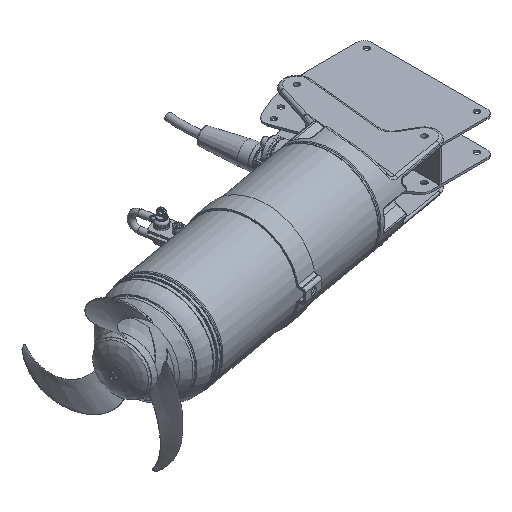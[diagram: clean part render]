
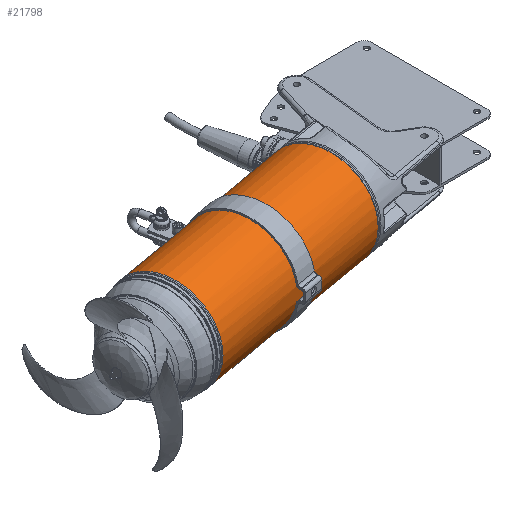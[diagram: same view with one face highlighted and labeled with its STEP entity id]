
A CAD part, isometric view. The second image highlights one B-rep face of the part: STEP entity #21798.
In plain terms, the highlighted cylindrical face has radius 98 mm (diameter 196 mm), a full revolution.
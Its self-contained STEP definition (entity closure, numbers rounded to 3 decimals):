
#15 = VERTEX_POINT ( 'NONE', #26609 ) ;
#64 = FACE_BOUND ( 'NONE', #28734, .T. ) ;
#120 = FACE_OUTER_BOUND ( 'NONE', #3072, .T. ) ;
#172 = FACE_BOUND ( 'NONE', #40458, .T. ) ;
#266 = DIRECTION ( 'NONE',  ( 0., 0., -1. ) ) ;
#401 = FACE_OUTER_BOUND ( 'NONE', #1186, .T. ) ;
#653 = VERTEX_POINT ( 'NONE', #3401 ) ;
#1125 = LINE ( 'NONE', #26561, #1234 ) ;
#1186 = EDGE_LOOP ( 'NONE', ( #4690 ) ) ;
#1234 = VECTOR ( 'NONE', #52079, 1000. ) ;
#2084 = VERTEX_POINT ( 'NONE', #19236 ) ;
#2513 = VERTEX_POINT ( 'NONE', #40773 ) ;
#3030 = EDGE_CURVE ( 'NONE', #3349, #653, #26223, .T. ) ;
#3072 = EDGE_LOOP ( 'NONE', ( #8753 ) ) ;
#3349 = VERTEX_POINT ( 'NONE', #33432 ) ;
#3401 = CARTESIAN_POINT ( 'NONE',  ( -368.321, -78.17, -13.652 ) ) ;
#4690 = ORIENTED_EDGE ( 'NONE', *, *, #30831, .T. ) ;
#5323 = VERTEX_POINT ( 'NONE', #23385 ) ;
#5430 = DIRECTION ( 'NONE',  ( -0.985, -0.174, 0. ) ) ;
#5707 = CIRCLE ( 'NONE', #48432, 98. ) ;
#6019 = CARTESIAN_POINT ( 'NONE',  ( -564.935, -14.297, 0. ) ) ;
#6060 = EDGE_CURVE ( 'NONE', #653, #15, #12913, .T. ) ;
#6793 = CARTESIAN_POINT ( 'NONE',  ( -188.668, 52.049, 98. ) ) ;
#7293 = ORIENTED_EDGE ( 'NONE', *, *, #27232, .F. ) ;
#7350 = EDGE_CURVE ( 'NONE', #5323, #2084, #7754, .T. ) ;
#7668 = VECTOR ( 'NONE', #15635, 1000. ) ;
#7754 = CIRCLE ( 'NONE', #19948, 98. ) ;
#8753 = ORIENTED_EDGE ( 'NONE', *, *, #34510, .T. ) ;
#10248 = DIRECTION ( 'NONE',  ( 0., 0., 1. ) ) ;
#11009 = ORIENTED_EDGE ( 'NONE', *, *, #21568, .F. ) ;
#11129 = CIRCLE ( 'NONE', #31465, 98. ) ;
#11857 = AXIS2_PLACEMENT_3D ( 'NONE', #20135, #16451, #12233 ) ;
#12233 = DIRECTION ( 'NONE',  ( 0., 0., -1. ) ) ;
#12448 = CARTESIAN_POINT ( 'NONE',  ( -345.78, 24.346, 0. ) ) ;
#12913 = CIRCLE ( 'NONE', #14625, 98. ) ;
#14028 = VERTEX_POINT ( 'NONE', #39700 ) ;
#14049 = ORIENTED_EDGE ( 'NONE', *, *, #7350, .T. ) ;
#14625 = AXIS2_PLACEMENT_3D ( 'NONE', #50882, #25385, #266 ) ;
#14984 = VECTOR ( 'NONE', #47099, 1000. ) ;
#15635 = DIRECTION ( 'NONE',  ( -0.985, -0.174, 0. ) ) ;
#16051 = VERTEX_POINT ( 'NONE', #54457 ) ;
#16451 = DIRECTION ( 'NONE',  ( -0.985, -0.174, 0. ) ) ;
#16646 = DIRECTION ( 'NONE',  ( 0., 0., -1. ) ) ;
#19236 = CARTESIAN_POINT ( 'NONE',  ( -328.928, -71.224, 13.652 ) ) ;
#19948 = AXIS2_PLACEMENT_3D ( 'NONE', #12448, #42000, #16646 ) ;
#20135 = CARTESIAN_POINT ( 'NONE',  ( -568.346, -14.899, 0. ) ) ;
#21568 = EDGE_CURVE ( 'NONE', #2513, #2084, #1125, .T. ) ;
#21798 = ADVANCED_FACE ( 'NONE', ( #172, #64, #401, #120 ), #54815, .T. ) ;
#23385 = CARTESIAN_POINT ( 'NONE',  ( -362.703, 120.32, 10.326 ) ) ;
#24255 = CARTESIAN_POINT ( 'NONE',  ( -345.78, 24.346, 0. ) ) ;
#24973 = CARTESIAN_POINT ( 'NONE',  ( -385.172, 17.4, 0. ) ) ;
#25385 = DIRECTION ( 'NONE',  ( 0.985, 0.174, 0. ) ) ;
#25884 = LINE ( 'NONE', #29983, #14984 ) ;
#26051 = VECTOR ( 'NONE', #52672, 1000. ) ;
#26223 = LINE ( 'NONE', #44108, #26051 ) ;
#26561 = CARTESIAN_POINT ( 'NONE',  ( -348.624, -74.697, 13.652 ) ) ;
#26609 = CARTESIAN_POINT ( 'NONE',  ( -402.095, 113.374, -10.326 ) ) ;
#26643 = EDGE_CURVE ( 'NONE', #15, #16051, #25884, .T. ) ;
#26859 = CIRCLE ( 'NONE', #47125, 98. ) ;
#27232 = EDGE_CURVE ( 'NONE', #14028, #2513, #11129, .T. ) ;
#28526 = DIRECTION ( 'NONE',  ( 0., 0., -1. ) ) ;
#28734 = EDGE_LOOP ( 'NONE', ( #35966, #49522, #35207, #48910 ) ) ;
#29239 = DIRECTION ( 'NONE',  ( 0., 0., -1. ) ) ;
#29983 = CARTESIAN_POINT ( 'NONE',  ( -382.399, 116.847, -10.326 ) ) ;
#30070 = LINE ( 'NONE', #36673, #7668 ) ;
#30653 = CARTESIAN_POINT ( 'NONE',  ( -188.668, 52.049, 0. ) ) ;
#30831 = EDGE_CURVE ( 'NONE', #40918, #40918, #34842, .T. ) ;
#31465 = AXIS2_PLACEMENT_3D ( 'NONE', #24973, #54770, #29239 ) ;
#33432 = CARTESIAN_POINT ( 'NONE',  ( -328.928, -71.224, -13.652 ) ) ;
#34510 = EDGE_CURVE ( 'NONE', #36274, #36274, #5707, .T. ) ;
#34599 = ORIENTED_EDGE ( 'NONE', *, *, #53860, .F. ) ;
#34842 = CIRCLE ( 'NONE', #49416, 98. ) ;
#34932 = DIRECTION ( 'NONE',  ( 0., 0., 1. ) ) ;
#35207 = ORIENTED_EDGE ( 'NONE', *, *, #26643, .F. ) ;
#35522 = DIRECTION ( 'NONE',  ( 0.985, 0.174, 0. ) ) ;
#35966 = ORIENTED_EDGE ( 'NONE', *, *, #3030, .F. ) ;
#36124 = CARTESIAN_POINT ( 'NONE',  ( -564.935, -14.297, 98. ) ) ;
#36274 = VERTEX_POINT ( 'NONE', #6793 ) ;
#36673 = CARTESIAN_POINT ( 'NONE',  ( -382.399, 116.847, 10.326 ) ) ;
#39700 = CARTESIAN_POINT ( 'NONE',  ( -402.095, 113.374, 10.326 ) ) ;
#40458 = EDGE_LOOP ( 'NONE', ( #34599, #14049, #11009, #7293 ) ) ;
#40773 = CARTESIAN_POINT ( 'NONE',  ( -368.321, -78.17, 13.652 ) ) ;
#40918 = VERTEX_POINT ( 'NONE', #36124 ) ;
#42000 = DIRECTION ( 'NONE',  ( 0.985, 0.174, 0. ) ) ;
#44108 = CARTESIAN_POINT ( 'NONE',  ( -348.624, -74.697, -13.652 ) ) ;
#47099 = DIRECTION ( 'NONE',  ( 0.985, 0.174, 0. ) ) ;
#47125 = AXIS2_PLACEMENT_3D ( 'NONE', #24255, #54051, #28526 ) ;
#48432 = AXIS2_PLACEMENT_3D ( 'NONE', #30653, #5430, #34932 ) ;
#48910 = ORIENTED_EDGE ( 'NONE', *, *, #6060, .F. ) ;
#49416 = AXIS2_PLACEMENT_3D ( 'NONE', #6019, #35522, #10248 ) ;
#49522 = ORIENTED_EDGE ( 'NONE', *, *, #51210, .T. ) ;
#50882 = CARTESIAN_POINT ( 'NONE',  ( -385.172, 17.4, 0. ) ) ;
#51210 = EDGE_CURVE ( 'NONE', #3349, #16051, #26859, .T. ) ;
#52079 = DIRECTION ( 'NONE',  ( 0.985, 0.174, 0. ) ) ;
#52672 = DIRECTION ( 'NONE',  ( -0.985, -0.174, 0. ) ) ;
#53860 = EDGE_CURVE ( 'NONE', #5323, #14028, #30070, .T. ) ;
#54051 = DIRECTION ( 'NONE',  ( 0.985, 0.174, 0. ) ) ;
#54457 = CARTESIAN_POINT ( 'NONE',  ( -362.703, 120.32, -10.326 ) ) ;
#54770 = DIRECTION ( 'NONE',  ( 0.985, 0.174, 0. ) ) ;
#54815 = CYLINDRICAL_SURFACE ( 'NONE', #11857, 98. ) ;
